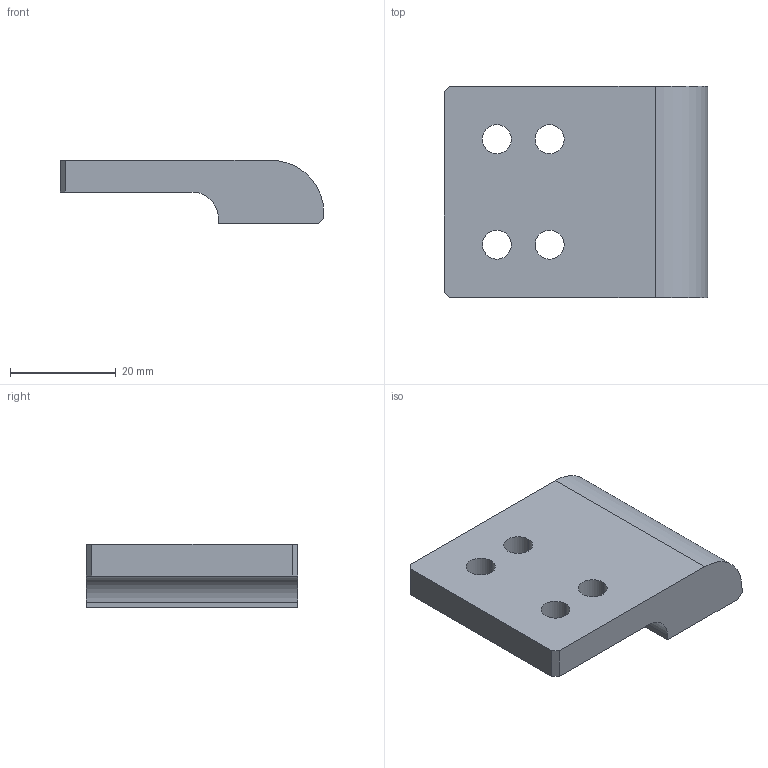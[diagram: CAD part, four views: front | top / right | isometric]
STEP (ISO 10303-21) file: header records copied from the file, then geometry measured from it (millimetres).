
FILE_DESCRIPTION (( 'STEP AP214' ), '1' );
FILE_NAME ('GZ26.09_V1µ¼ÏòÑ¹¿é..STEP', '2021-03-31T14:32:46', ( 'hp' ), ( '' ), 'SwSTEP 2.0', 'SolidWorks 2017', '' );
FILE_SCHEMA (( 'AUTOMOTIVE_DESIGN' ));
Length unit declared in the file: millimetre
Products named in the file (1): GZ26.09_V1絳砃揤輸.
Bounding box: 50 x 40 x 12 mm (x, y, z)
Volume: 15560 mm3; surface area: 5701.5 mm2
Topology: 1 solids, 1 shells, 21 faces, 57 edges, 38 vertices
Faces by surface type: plane 11, cylinder 10
Entity records: 721 total; most frequent: DIRECTION 121, CARTESIAN_POINT 117, ORIENTED_EDGE 114, EDGE_CURVE 57, AXIS2_PLACEMENT_3D 42, VERTEX_POINT 38, LINE 37, VECTOR 37
